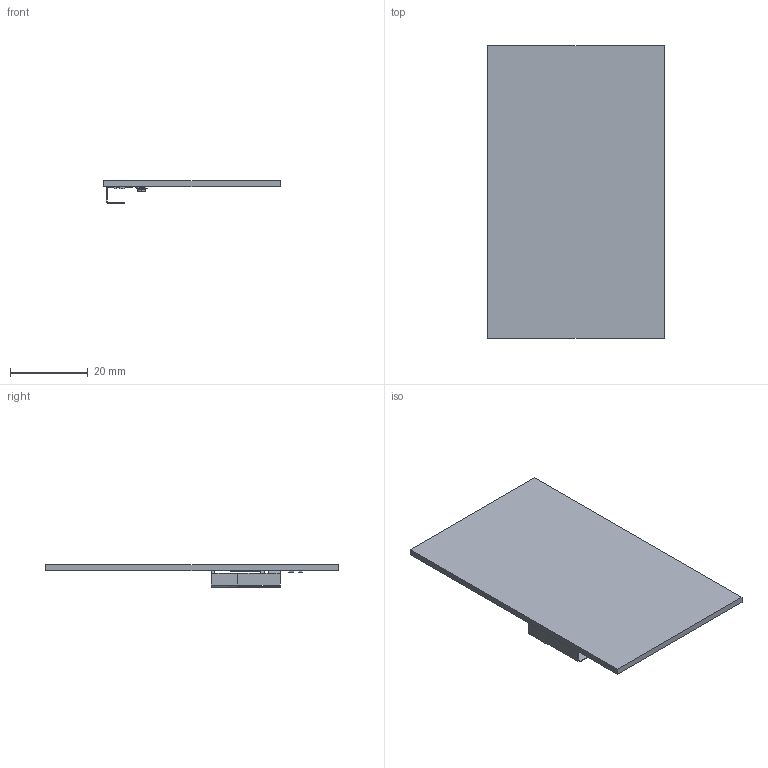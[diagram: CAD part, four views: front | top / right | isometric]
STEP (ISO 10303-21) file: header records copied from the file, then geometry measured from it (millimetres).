
FILE_DESCRIPTION((''),'2;1');
FILE_NAME('1000146-11_A-ME-FIT_ASM','2026-07-10T14:55:09',('jarvayo'),(''),'CREO PARAMETRIC BY PTC INC, 2025183','CREO PARAMETRIC BY PTC INC, 2025183','');
FILE_SCHEMA(('AP203_CONFIGURATION_CONTROLLED_3D_DESIGN_OF_MECHANICAL_PARTS_AND_ASSEMBLIES_MIM_LF { 1 0 10303 403 2 1 2 }'));
Products named in the file (5): 1006129_A-ME-FIT; 1000146; STD_HIROSE_RECEPTACLE; 0402; 1000146-11_A-ME-FIT_ASM
Assembly tree (6 placements, depth 2):
  1000146-11_A-ME-FIT_ASM
    1006129_A-ME-FIT
    1000146
    STD_HIROSE_RECEPTACLE
    0402  x3
Bounding box: 45.5 x 75.5 x 5.87 mm (x, y, z)
Volume: 5536.9 mm3; surface area: 7692 mm2
Topology: 6 solids, 6 shells, 5828 faces, 16397 edges, 11018 vertices
Faces by surface type: plane 5367, bspline 433, cylinder 21, cone 5, torus 2
Entity records: 204734 total; most frequent: CARTESIAN_POINT 49927, ORIENTED_EDGE 32388, DIRECTION 26423, EDGE_CURVE 16194, VECTOR 15411, LINE 15411, VERTEX_POINT 10780, EDGE_LOOP 6170
